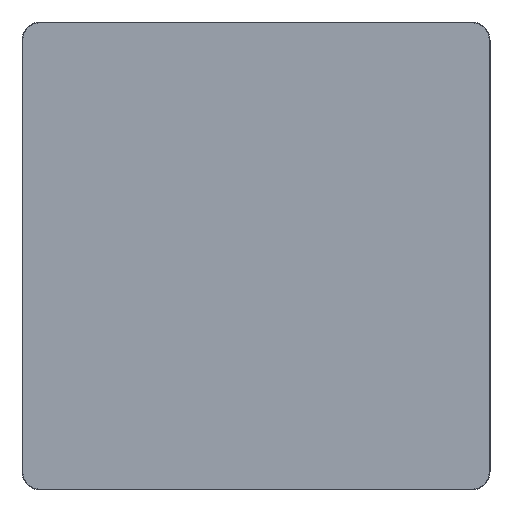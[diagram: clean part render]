
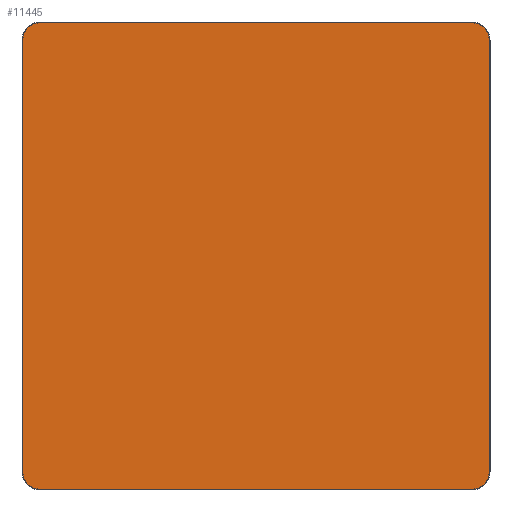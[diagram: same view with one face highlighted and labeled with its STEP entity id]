
A CAD part, top view. The second image highlights one B-rep face of the part: STEP entity #11445.
In plain terms, the highlighted planar face has unit normal (0, 0, 1).
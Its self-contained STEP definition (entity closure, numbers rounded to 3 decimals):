
#11370=CARTESIAN_POINT('',(0.,0.,20.));
#11371=DIRECTION('',(1.,0.,0.));
#11372=DIRECTION('',(0.,0.,1.));
#11373=AXIS2_PLACEMENT_3D('',#11370,#11372,#11371);
#11374=PLANE('',#11373);
#11375=CARTESIAN_POINT('',(-415.,-448.5,20.));
#11376=VERTEX_POINT('',#11375);
#11377=CARTESIAN_POINT('',(415.,-448.5,20.));
#11378=VERTEX_POINT('',#11377);
#11379=CARTESIAN_POINT('',(-415.,-448.5,20.));
#11380=DIRECTION('',(1.,0.,0.));
#11381=VECTOR('',#11380,830.);
#11382=LINE('',#11379,#11381);
#11383=EDGE_CURVE('',#11376,#11378,#11382,.T.);
#11384=ORIENTED_EDGE('E105',*,*,#11383,.T.);
#11385=CARTESIAN_POINT('',(448.5,-415.,20.));
#11386=VERTEX_POINT('',#11385);
#11387=CARTESIAN_POINT('',(415.,-415.,20.));
#11388=DIRECTION('',(0.,-1.,0.));
#11389=DIRECTION('',(0.,-0.,1.));
#11390=AXIS2_PLACEMENT_3D('',#11387,#11389,#11388);
#11391=CIRCLE('',#11390,33.5);
#11392=EDGE_CURVE('',#11378,#11386,#11391,.T.);
#11393=ORIENTED_EDGE('E107',*,*,#11392,.T.);
#11394=CARTESIAN_POINT('',(448.5,415.,20.));
#11395=VERTEX_POINT('',#11394);
#11396=CARTESIAN_POINT('',(448.5,-415.,20.));
#11397=DIRECTION('',(0.,1.,0.));
#11398=VECTOR('',#11397,830.);
#11399=LINE('',#11396,#11398);
#11400=EDGE_CURVE('',#11386,#11395,#11399,.T.);
#11401=ORIENTED_EDGE('E109',*,*,#11400,.T.);
#11402=CARTESIAN_POINT('',(415.,448.5,20.));
#11403=VERTEX_POINT('',#11402);
#11404=CARTESIAN_POINT('',(415.,415.,20.));
#11405=DIRECTION('',(1.,0.,0.));
#11406=DIRECTION('',(0.,0.,1.));
#11407=AXIS2_PLACEMENT_3D('',#11404,#11406,#11405);
#11408=CIRCLE('',#11407,33.5);
#11409=EDGE_CURVE('',#11395,#11403,#11408,.T.);
#11410=ORIENTED_EDGE('E111',*,*,#11409,.T.);
#11411=CARTESIAN_POINT('',(-415.,448.5,20.));
#11412=VERTEX_POINT('',#11411);
#11413=CARTESIAN_POINT('',(415.,448.5,20.));
#11414=DIRECTION('',(-1.,0.,0.));
#11415=VECTOR('',#11414,830.);
#11416=LINE('',#11413,#11415);
#11417=EDGE_CURVE('',#11403,#11412,#11416,.T.);
#11418=ORIENTED_EDGE('E113',*,*,#11417,.T.);
#11419=CARTESIAN_POINT('',(-448.5,415.,20.));
#11420=VERTEX_POINT('',#11419);
#11421=CARTESIAN_POINT('',(-415.,415.,20.));
#11422=DIRECTION('',(0.,1.,0.));
#11423=DIRECTION('',(0.,0.,1.));
#11424=AXIS2_PLACEMENT_3D('',#11421,#11423,#11422);
#11425=CIRCLE('',#11424,33.5);
#11426=EDGE_CURVE('',#11412,#11420,#11425,.T.);
#11427=ORIENTED_EDGE('E115',*,*,#11426,.T.);
#11428=CARTESIAN_POINT('',(-448.5,-415.,20.));
#11429=VERTEX_POINT('',#11428);
#11430=CARTESIAN_POINT('',(-448.5,415.,20.));
#11431=DIRECTION('',(0.,-1.,0.));
#11432=VECTOR('',#11431,830.);
#11433=LINE('',#11430,#11432);
#11434=EDGE_CURVE('',#11420,#11429,#11433,.T.);
#11435=ORIENTED_EDGE('E117',*,*,#11434,.T.);
#11436=CARTESIAN_POINT('',(-415.,-415.,20.));
#11437=DIRECTION('',(-1.,0.,0.));
#11438=DIRECTION('',(-0.,0.,1.));
#11439=AXIS2_PLACEMENT_3D('',#11436,#11438,#11437);
#11440=CIRCLE('',#11439,33.5);
#11441=EDGE_CURVE('',#11429,#11376,#11440,.T.);
#11442=ORIENTED_EDGE('E119',*,*,#11441,.T.);
#11443=EDGE_LOOP('',(#11384,#11393,#11401,#11410,#11418,#11427,#11435,#11442));
#11444=FACE_OUTER_BOUND('',#11443,.T.);
#11445=ADVANCED_FACE('F2',(#11444),#11374,.T.);
